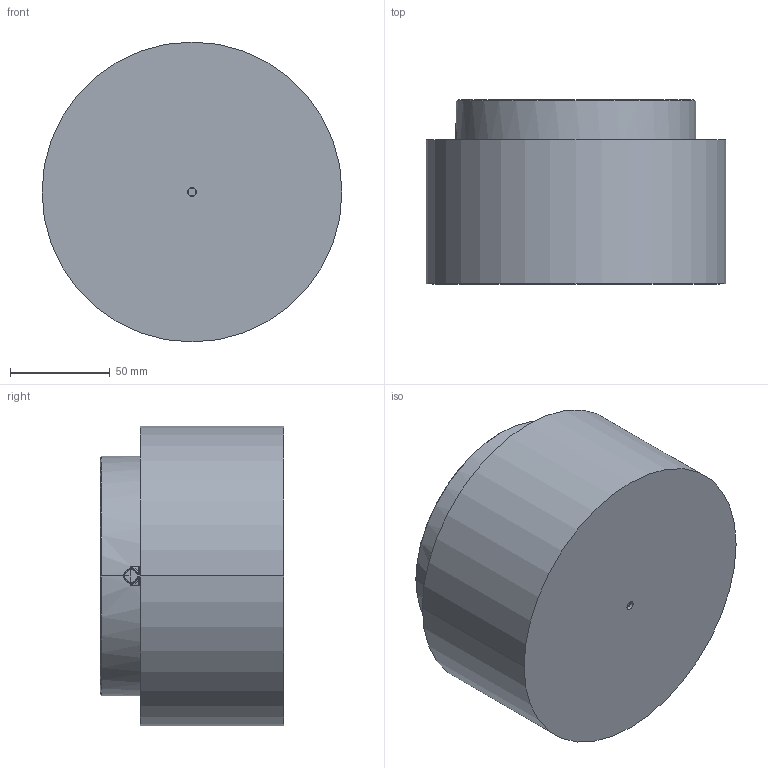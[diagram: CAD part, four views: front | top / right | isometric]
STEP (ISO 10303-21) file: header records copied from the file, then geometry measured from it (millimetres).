
FILE_DESCRIPTION((''),'2;1');
FILE_NAME('S54G102.stp','2020-09-19T08:44:28',(''),(''),'AutoCAD STEP 2000i','AutoCAD 2000i',', , ');
FILE_SCHEMA(('CONFIG_CONTROL_DESIGN'));
Length unit declared in the file: millimetre
Products named in the file (4): DRAWING1; MOLD BODY 102G54; NOZZLE M102G54; RING 54-2018
Assembly tree (3 placements, depth 2):
  DRAWING1
    MOLD BODY 102G54
    NOZZLE M102G54
    RING 54-2018
Bounding box: 150 x 92 x 150 mm (x, y, z)
Volume: 1466702.2 mm3; surface area: 129594.5 mm2
Topology: 3 solids, 3 shells, 161 faces, 383 edges, 242 vertices
Faces by surface type: cylinder 64, cone 44, plane 28, bspline 13, torus 12
Entity records: 5381 total; most frequent: CARTESIAN_POINT 1361, DIRECTION 926, ORIENTED_EDGE 754, AXIS2_PLACEMENT_3D 404, EDGE_CURVE 377, CIRCLE 252, VERTEX_POINT 240, EDGE_LOOP 191
